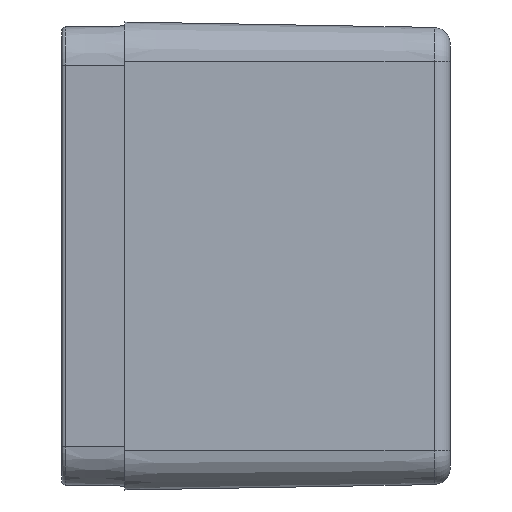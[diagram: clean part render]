
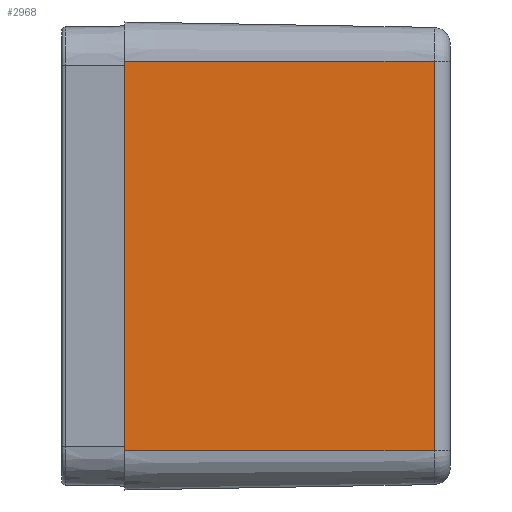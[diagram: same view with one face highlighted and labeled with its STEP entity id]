
A CAD part, left-side view. The second image highlights one B-rep face of the part: STEP entity #2968.
In plain terms, the highlighted planar face has unit normal (-1, -0.018, 0).
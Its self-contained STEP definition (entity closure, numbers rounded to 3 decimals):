
#109 = DIRECTION ( 'NONE',  ( -0.017, 1., 0. ) ) ;
#384 = LINE ( 'NONE', #2673, #2941 ) ;
#576 = LINE ( 'NONE', #5278, #5903 ) ;
#783 = VERTEX_POINT ( 'NONE', #2451 ) ;
#876 = AXIS2_PLACEMENT_3D ( 'NONE', #2759, #1052, #3331 ) ;
#880 = EDGE_LOOP ( 'NONE', ( #4604, #2793, #2017, #6887 ) ) ;
#1018 = EDGE_CURVE ( 'NONE', #3189, #783, #576, .T. ) ;
#1052 = DIRECTION ( 'NONE',  ( -1., -0.017, 0. ) ) ;
#1360 = CARTESIAN_POINT ( 'NONE',  ( -44.85, 0., -14.9 ) ) ;
#1877 = DIRECTION ( 'NONE',  ( 0., 0., 1. ) ) ;
#1927 = EDGE_CURVE ( 'NONE', #2692, #3877, #384, .T. ) ;
#2017 = ORIENTED_EDGE ( 'NONE', *, *, #1018, .T. ) ;
#2451 = CARTESIAN_POINT ( 'NONE',  ( -44.85, 0., 14.9 ) ) ;
#2673 = CARTESIAN_POINT ( 'NONE',  ( -44.85, 0., -14.9 ) ) ;
#2686 = EDGE_CURVE ( 'NONE', #3877, #783, #5167, .T. ) ;
#2692 = VERTEX_POINT ( 'NONE', #5283 ) ;
#2759 = CARTESIAN_POINT ( 'NONE',  ( -44.85, 0., 14.9 ) ) ;
#2793 = ORIENTED_EDGE ( 'NONE', *, *, #7004, .T. ) ;
#2935 = CARTESIAN_POINT ( 'NONE',  ( -44.85, 0., 14.9 ) ) ;
#2941 = VECTOR ( 'NONE', #4218, 1000. ) ;
#2968 = ADVANCED_FACE ( 'NONE', ( #3898 ), #6205, .T. ) ;
#3139 = VECTOR ( 'NONE', #1877, 1000. ) ;
#3147 = CARTESIAN_POINT ( 'NONE',  ( -44.437, -23.672, 14.9 ) ) ;
#3189 = VERTEX_POINT ( 'NONE', #5625 ) ;
#3331 = DIRECTION ( 'NONE',  ( 0.017, -1., 0. ) ) ;
#3606 = LINE ( 'NONE', #3147, #6088 ) ;
#3877 = VERTEX_POINT ( 'NONE', #1360 ) ;
#3898 = FACE_OUTER_BOUND ( 'NONE', #880, .T. ) ;
#4218 = DIRECTION ( 'NONE',  ( -0.017, 1., 0. ) ) ;
#4604 = ORIENTED_EDGE ( 'NONE', *, *, #1927, .F. ) ;
#5167 = LINE ( 'NONE', #2935, #3139 ) ;
#5278 = CARTESIAN_POINT ( 'NONE',  ( -44.85, 0., 14.9 ) ) ;
#5283 = CARTESIAN_POINT ( 'NONE',  ( -44.437, -23.672, -14.9 ) ) ;
#5625 = CARTESIAN_POINT ( 'NONE',  ( -44.437, -23.672, 14.9 ) ) ;
#5874 = DIRECTION ( 'NONE',  ( 0., 0., 1. ) ) ;
#5903 = VECTOR ( 'NONE', #109, 1000. ) ;
#6088 = VECTOR ( 'NONE', #5874, 1000. ) ;
#6205 = PLANE ( 'NONE',  #876 ) ;
#6887 = ORIENTED_EDGE ( 'NONE', *, *, #2686, .F. ) ;
#7004 = EDGE_CURVE ( 'NONE', #2692, #3189, #3606, .T. ) ;
